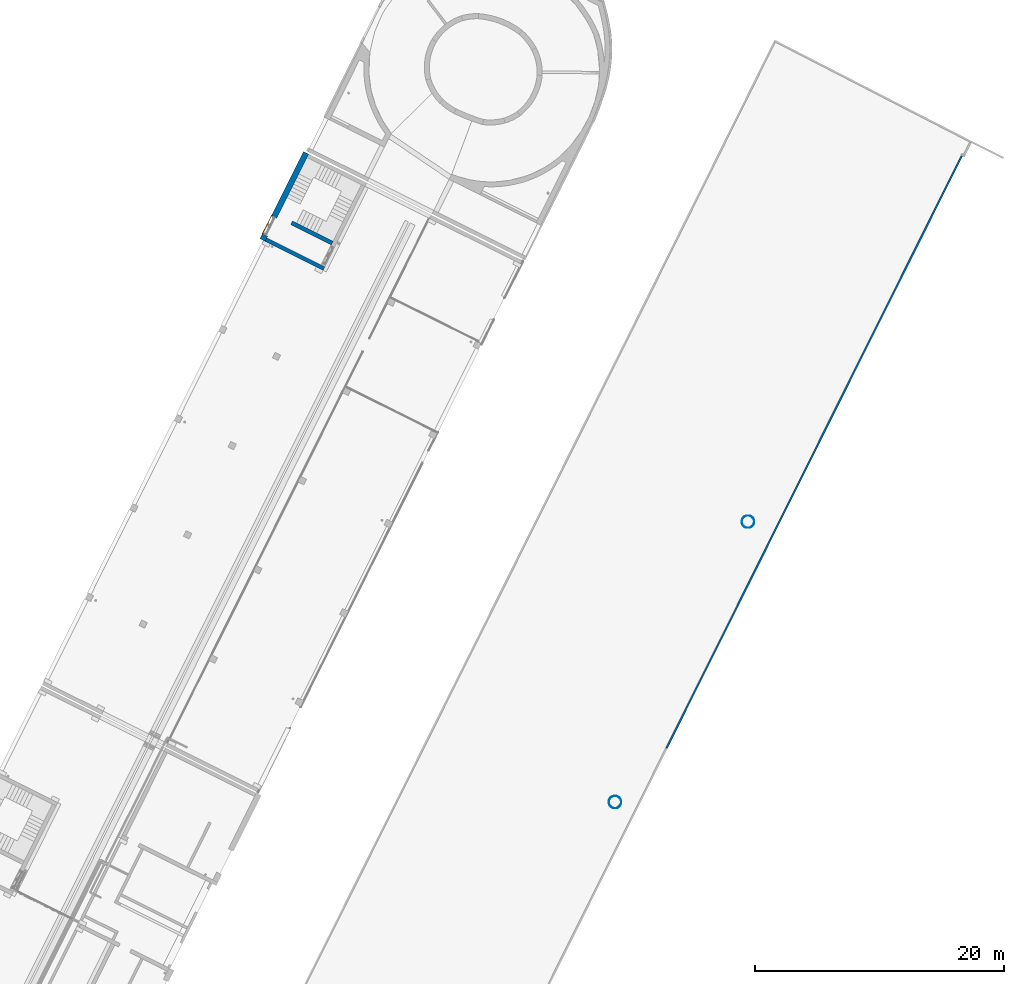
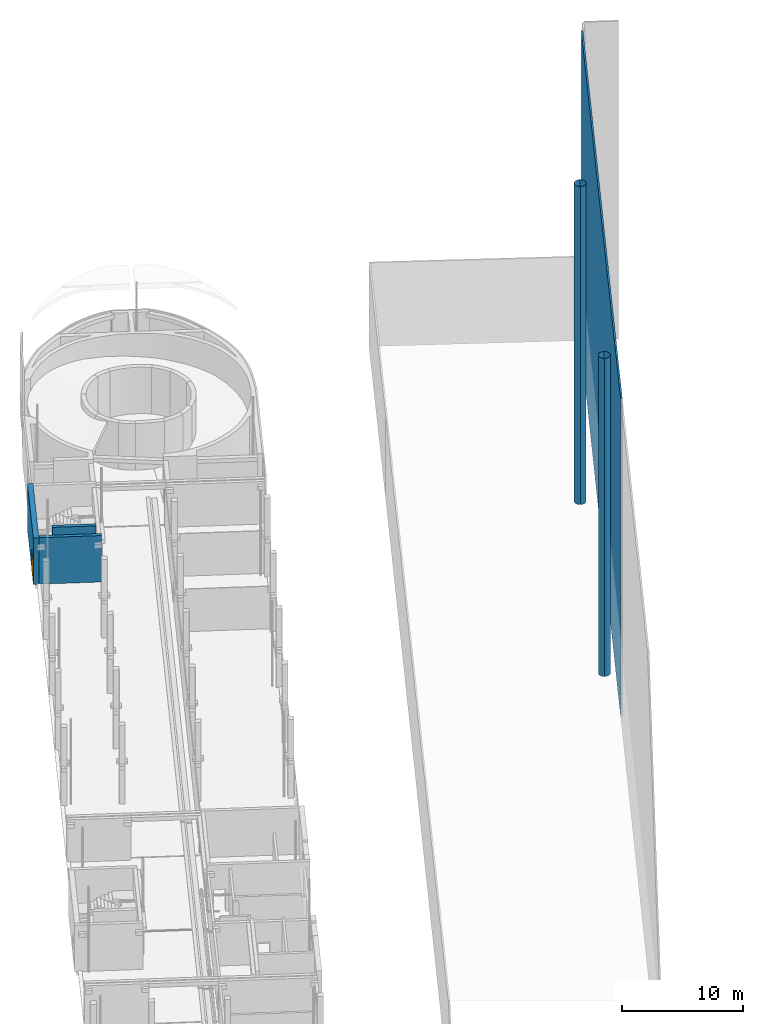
# One storey, part 16 of 91: 8 walls, 1 door, 1 opening.
"""IFC2X3 building model written with IfcOpenShell, lengths in metres."""

from ifc_helpers import new_model, entity, si_unit, converted_unit, derived_unit, direction, frame, frame_2d, origin, place, context, subcontext, project, spatial, polyline, circle_curve, parameter, trimmed, segment, composite_curve, rectangle, outline, extrude, clip, bounded_halfspace, faceted_brep, source, transform, mapped, material, layer, layer_set, layer_usage, type_object, type_shapes, element, fill, save


model = new_model("IFC2X3")

# Units and contexts
model_context = context("Model", 3, precision=1e-05, world=origin(), true_north=direction((0.894925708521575, 0.446215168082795)))
context_of_model = context(None, 3, precision=1e-05, world=origin(), true_north=direction((0.894925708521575, 0.446215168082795)))
body_context = subcontext(model_context, "Body", "Model", "MODEL_VIEW")
ifc_project = project(units=[si_unit("LENGTHUNIT", "METRE"), si_unit("AREAUNIT", "SQUARE_METRE"), si_unit("VOLUMEUNIT", "CUBIC_METRE"), converted_unit("PLANEANGLEUNIT", "DEGREE", entity("IfcRatioMeasure", 0.0174532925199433), si_unit("PLANEANGLEUNIT", "RADIAN"), dimensions=[0, 0, 0, 0, 0, 0, 0]), si_unit("MASSUNIT", "GRAM", prefix="KILO"), si_unit("TIMEUNIT", "SECOND"), si_unit("FREQUENCYUNIT", "HERTZ"), si_unit("THERMODYNAMICTEMPERATUREUNIT", "DEGREE_CELSIUS"), derived_unit("THERMALTRANSMITTANCEUNIT", [(si_unit("MASSUNIT", "GRAM", prefix="KILO"), 1), (si_unit("THERMODYNAMICTEMPERATUREUNIT", "KELVIN"), -1), (si_unit("TIMEUNIT", "SECOND"), -3)]), derived_unit("VOLUMETRICFLOWRATEUNIT", [(si_unit("LENGTHUNIT", "METRE"), 3), (si_unit("TIMEUNIT", "SECOND"), -1)]), si_unit("ELECTRICCURRENTUNIT", "AMPERE"), si_unit("ELECTRICVOLTAGEUNIT", "VOLT"), si_unit("POWERUNIT", "WATT"), si_unit("FORCEUNIT", "NEWTON", prefix="KILO"), si_unit("ILLUMINANCEUNIT", "LUX"), si_unit("LUMINOUSFLUXUNIT", "LUMEN"), si_unit("LUMINOUSINTENSITYUNIT", "CANDELA"), si_unit("PRESSUREUNIT", "PASCAL")], contexts=[model_context, context_of_model])

# Site, building, storey
site_placement = place(None, frame((218.228324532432, 584.720189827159, 0.0), z_axis=(0.0, 0.0, 1.0), x_axis=(0.446215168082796, 0.894925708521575, 0.0)))
site = spatial("IfcSite", under=ifc_project, at=site_placement, Name="Default", CompositionType="ELEMENT")
building_placement = place(site_placement, origin())
building = spatial("IfcBuilding", under=site, at=building_placement, CompositionType="ELEMENT")
storey_placement = place(building_placement, origin())
storey = spatial("IfcBuildingStorey", under=building, at=storey_placement, Name="0 - Piano Terra", CompositionType="ELEMENT", Elevation=0.0)

# Wall, opening, door
ifc_material_1 = material(Name="Alluminio")
ifc_layer_1 = layer(ifc_material_1, 0.15)
ifc_material_2 = material(Name="Default - Calcestruzzo")
ifc_layer_2 = layer(ifc_material_2, 0.3)
ifc_material_3 = material(Name="Intonaco - Bianco")
ifc_layer_3 = layer(ifc_material_3, 0.02)
ifc_layer_set_1 = layer_set([ifc_layer_1, ifc_layer_2, ifc_layer_3], Name="Muro di base:Setto CA rivestito int-est 47 cm")
ifc_layer_usage_1 = layer_usage(ifc_layer_set_1, "AXIS2", "NEGATIVE", 0.235)
wall_type_1 = type_object("IfcWallType", Name="Muro di base:Setto CA rivestito int-est 47 cm", PredefinedType="STANDARD", material=ifc_layer_set_1)
wall_1_placement = place(storey_placement, frame((51.0059369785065, 6.2239210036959, 0.0)))
wall_1 = element("IfcWallStandardCase", 1, at=wall_1_placement, inside=storey, type_object=wall_type_1, material=ifc_layer_usage_1, Name="Muro di base:Setto CA rivestito int-est 47 cm", ObjectType="Muro di base:Setto CA rivestito int-est 47 cm", context=body_context, shape_type="Clipping", body=[
    clip(extrude(rectangle(XDim=7.82999999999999, YDim=0.469999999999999, at=frame_2d((3.91499999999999, 0.0), x_axis=(-1.0, 0.0))), origin(), (0.0, 0.0, 1.0), 4.69), bounded_halfspace(frame((0.0, -0.235000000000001, 4.69), z_axis=(0.0, 0.0, -1.0), x_axis=(0.0, 1.0, 0.0)), True, frame((0.0, -0.235000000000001, 4.69)), polyline([(0.0, 0.0), (0.309999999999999, 0.0), (7.51999999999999, 0.0), (7.82999999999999, 0.0), (7.82999999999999, 0.140000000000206), (7.82999999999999, 0.47), (0.0, 0.47), (0.0, 0.140000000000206), (0.0, 0.0)]))),
])
opening_placement = place(wall_1_placement, frame((0.420000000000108, -0.534999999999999, 0.0)))
opening = element("IfcOpeningElement", 2, at=opening_placement, cuts=wall_1, Name="Muro di base:Setto CA rivestito int-est 47 cm", ObjectType="Opening", context=body_context, shape_type="Brep", body=[
    faceted_brep([(1.65999999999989, 0.0, 2.11000000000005), (1.65999999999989, 0.720000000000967, 2.11000000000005), (0.0399999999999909, 0.720000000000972, 2.11000000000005), (0.0399999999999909, 0.0, 2.11000000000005), (1.65999999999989, 1.07000000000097, 0.0), (1.65999999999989, 0.770000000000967, 0.0), (1.69999999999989, 0.770000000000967, 0.0), (1.69999999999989, 0.720000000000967, 0.0), (1.65999999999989, 0.720000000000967, 0.0), (1.65999999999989, 0.0, 0.0), (0.0399999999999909, 0.0, 0.0), (0.0399999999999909, 0.720000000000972, 0.0), (0.0, 0.720000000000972, 0.0), (0.0, 0.770000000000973, 0.0), (0.0399999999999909, 0.770000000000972, 0.0), (0.0399999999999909, 1.07000000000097, 0.0), (1.65999999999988, 1.07000000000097, 2.11000000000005), (0.0399999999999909, 1.07000000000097, 2.11000000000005), (1.65999999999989, 0.770000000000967, 2.11000000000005), (0.0, 0.770000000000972, 2.15000000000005), (1.69999999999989, 0.770000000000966, 2.15000000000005), (0.0399999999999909, 0.770000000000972, 2.11000000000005), (1.69999999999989, 0.720000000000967, 2.15000000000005), (0.0, 0.720000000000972, 2.15000000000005)], [[[0, 1, 2, 3]], [[4, 5, 6, 7, 8, 9, 10, 11, 12, 13, 14, 15]], [[16, 4, 15, 17]], [[3, 2, 11, 10]], [[3, 10, 9, 0]], [[16, 18, 5, 4]], [[13, 19, 20, 6, 5, 18, 21, 14]], [[11, 2, 1, 8, 7, 22, 23, 12]], [[12, 23, 19, 13]], [[19, 23, 22, 20]], [[20, 22, 7, 6]], [[9, 8, 1, 0]], [[15, 14, 21, 17]], [[17, 21, 18, 16]]]),
])
door_style = type_object("IfcDoorStyle", Name="180x210", ConstructionType="NOTDEFINED", OperationType="DOUBLE_DOOR_SINGLE_SWING", ParameterTakesPrecedence=False, Sizeable=False, material=ifc_material_1)
shared_shape = source(origin(), body_context, "Body", "Brep", [
    faceted_brep([(0.0499999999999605, -0.289999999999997, 0.0), (0.0499999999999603, -0.329999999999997, 0.0), (0.0649999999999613, -0.329999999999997, 0.0), (0.0649999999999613, -0.349999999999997, 0.0), (0.0, -0.349999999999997, 0.0), (0.0, -0.289999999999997, 0.0), (0.0499999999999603, -0.289999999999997, 2.10000000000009), (0.0499999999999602, -0.329999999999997, 2.10000000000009), (1.64999999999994, -0.330000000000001, 2.10000000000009), (1.64999999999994, -0.330000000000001, 0.0), (1.63499999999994, -0.330000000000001, 0.0), (1.63499999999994, -0.330000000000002, 2.08500000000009), (0.0649999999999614, -0.329999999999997, 2.08500000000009), (0.0649999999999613, -0.349999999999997, 2.08500000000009), (1.63499999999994, -0.350000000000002, 2.08500000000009), (1.63499999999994, -0.350000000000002, 0.0), (1.6999999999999, -0.350000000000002, 0.0), (1.6999999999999, -0.350000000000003, 2.15000000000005), (0.0, -0.349999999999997, 2.15000000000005), (0.0, -0.289999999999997, 2.15000000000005), (1.6999999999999, -0.290000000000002, 2.15000000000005), (1.6999999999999, -0.290000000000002, 0.0), (1.64999999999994, -0.290000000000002, 0.0), (1.64999999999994, -0.290000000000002, 2.10000000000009)], [[[0, 1, 2, 3, 4, 5]], [[1, 0, 6, 7]], [[2, 1, 7, 8, 9, 10, 11, 12]], [[3, 2, 12, 13]], [[4, 3, 13, 14, 15, 16, 17, 18]], [[5, 4, 18, 19]], [[0, 5, 19, 20, 21, 22, 23, 6]], [[8, 23, 22, 9]], [[22, 21, 16, 15, 10, 9]], [[14, 11, 10, 15]], [[20, 17, 16, 21]], [[7, 6, 23, 8]], [[13, 12, 11, 14]], [[19, 18, 17, 20]]]),
    faceted_brep([(0.84999999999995, -0.289999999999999, 2.1), (0.84999999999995, -0.289999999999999, 0.0), (0.0499999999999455, -0.289999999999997, 0.0), (0.0499999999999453, -0.289999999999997, 2.1), (0.849999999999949, -0.329999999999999, 2.1), (0.0499999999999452, -0.329999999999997, 2.1), (0.0499999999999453, -0.329999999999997, 0.0), (0.84999999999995, -0.329999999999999, 0.0)], [[[0, 1, 2, 3]], [[4, 5, 6, 7]], [[1, 0, 4, 7]], [[2, 1, 7, 6]], [[3, 2, 6, 5]], [[0, 3, 5, 4]]]),
    faceted_brep([(1.64999999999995, -0.29, 0.0), (0.84999999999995, -0.289999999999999, 0.0), (0.84999999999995, -0.289999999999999, 2.1), (1.64999999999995, -0.29, 2.1), (1.64999999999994, -0.330000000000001, 0.0), (1.64999999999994, -0.330000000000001, 2.1), (0.849999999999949, -0.329999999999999, 2.1), (0.84999999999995, -0.329999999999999, 0.0)], [[[0, 1, 2, 3]], [[4, 5, 6, 7]], [[1, 0, 4, 7]], [[2, 1, 7, 6]], [[3, 2, 6, 5]], [[0, 3, 5, 4]]]),
    faceted_brep([(0.864999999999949, -0.287000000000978, 2.1), (0.834999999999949, -0.287000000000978, 2.1), (0.834999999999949, -0.290000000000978, 2.1), (0.864999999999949, -0.290000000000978, 2.1), (0.864999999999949, -0.287000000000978, 0.0), (0.864999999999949, -0.290000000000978, 0.0), (0.834999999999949, -0.290000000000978, 0.0), (0.834999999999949, -0.287000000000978, 0.0)], [[[0, 1, 2, 3]], [[4, 5, 6, 7]], [[1, 0, 4, 7]], [[2, 1, 7, 6]], [[3, 2, 6, 5]], [[0, 3, 5, 4]]]),
    faceted_brep([(1.6599999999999, -0.280000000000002, 1.85000000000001), (1.64999999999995, -0.280000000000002, 1.85000000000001), (1.63499999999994, -0.290000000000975, 1.85000000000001), (1.6599999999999, -0.290000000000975, 1.85000000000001), (1.6599999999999, -0.280000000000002, 1.80000000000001), (1.64999999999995, -0.280000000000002, 1.80000000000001), (1.63499999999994, -0.290000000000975, 1.80000000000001), (1.6599999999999, -0.290000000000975, 1.80000000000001)], [[[0, 1, 2, 3]], [[1, 0, 4, 5]], [[2, 1, 5, 6]], [[3, 2, 6, 7]], [[0, 3, 7, 4]], [[4, 7, 6, 5]]]),
    faceted_brep([(0.0399999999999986, -0.280000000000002, 1.80000000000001), (0.0499999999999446, -0.280000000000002, 1.80000000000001), (0.064999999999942, -0.290000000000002, 1.80000000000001), (0.0399999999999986, -0.290000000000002, 1.80000000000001), (0.0399999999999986, -0.290000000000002, 1.85000000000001), (0.0399999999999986, -0.280000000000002, 1.85000000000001), (0.064999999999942, -0.290000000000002, 1.85000000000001), (0.0499999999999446, -0.280000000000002, 1.85000000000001)], [[[0, 1, 2, 3]], [[4, 5, 0, 3]], [[6, 4, 3, 2]], [[7, 6, 2, 1]], [[5, 7, 1, 0]], [[5, 4, 6, 7]]]),
    faceted_brep([(1.6599999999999, -0.280000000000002, 1.80000000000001), (1.64999999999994, -0.280000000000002, 1.80000000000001), (1.64999999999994, -0.290000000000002, 1.80000000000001), (1.6599999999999, -0.290000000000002, 1.80000000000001), (1.6599999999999, -0.280000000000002, 1.75000000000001), (1.64999999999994, -0.280000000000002, 1.75000000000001), (1.64999999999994, -0.290000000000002, 1.75000000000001), (1.6599999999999, -0.290000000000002, 1.75000000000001)], [[[0, 1, 2, 3]], [[1, 0, 4, 5]], [[2, 1, 5, 6]], [[3, 2, 6, 7]], [[0, 3, 7, 4]], [[4, 7, 6, 5]]]),
    faceted_brep([(0.0499999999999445, -0.280000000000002, 1.75000000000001), (0.0499999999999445, -0.290000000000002, 1.75000000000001), (0.0399999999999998, -0.290000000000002, 1.75000000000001), (0.0399999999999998, -0.280000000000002, 1.75000000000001), (0.0399999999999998, -0.280000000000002, 1.80000000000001), (0.0499999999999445, -0.280000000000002, 1.80000000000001), (0.0399999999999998, -0.290000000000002, 1.80000000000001), (0.0499999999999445, -0.290000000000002, 1.80000000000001)], [[[0, 1, 2, 3]], [[4, 5, 0, 3]], [[6, 4, 3, 2]], [[7, 6, 2, 1]], [[5, 7, 1, 0]], [[5, 4, 6, 7]]]),
    faceted_brep([(0.0399999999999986, -0.290000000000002, 0.349999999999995), (0.064999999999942, -0.290000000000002, 0.349999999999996), (0.0499999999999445, -0.280000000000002, 0.349999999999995), (0.0399999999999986, -0.280000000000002, 0.349999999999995), (0.0399999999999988, -0.290000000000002, 0.299999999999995), (0.0649999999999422, -0.290000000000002, 0.299999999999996), (0.0499999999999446, -0.280000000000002, 0.299999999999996), (0.0399999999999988, -0.280000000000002, 0.299999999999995)], [[[0, 1, 2, 3]], [[1, 0, 4, 5]], [[2, 1, 5, 6]], [[3, 2, 6, 7]], [[0, 3, 7, 4]], [[4, 7, 6, 5]]]),
    faceted_brep([(1.6599999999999, -0.280000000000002, 0.300000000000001), (1.6599999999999, -0.290000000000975, 0.300000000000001), (1.63499999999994, -0.290000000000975, 0.300000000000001), (1.64999999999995, -0.280000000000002, 0.300000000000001), (1.64999999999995, -0.280000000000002, 0.350000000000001), (1.6599999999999, -0.280000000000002, 0.350000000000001), (1.63499999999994, -0.290000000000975, 0.350000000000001), (1.6599999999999, -0.290000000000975, 0.350000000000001)], [[[0, 1, 2, 3]], [[4, 5, 0, 3]], [[6, 4, 3, 2]], [[7, 6, 2, 1]], [[5, 7, 1, 0]], [[5, 4, 6, 7]]]),
    faceted_brep([(1.64999999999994, -0.280000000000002, 0.300000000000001), (1.64999999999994, -0.290000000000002, 0.300000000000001), (1.6599999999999, -0.290000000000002, 0.300000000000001), (1.6599999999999, -0.280000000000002, 0.300000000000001), (1.64999999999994, -0.280000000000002, 0.250000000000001), (1.64999999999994, -0.290000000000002, 0.250000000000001), (1.6599999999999, -0.290000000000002, 0.250000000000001), (1.6599999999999, -0.280000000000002, 0.250000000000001)], [[[0, 1, 2, 3]], [[1, 0, 4, 5]], [[2, 1, 5, 6]], [[3, 2, 6, 7]], [[0, 3, 7, 4]], [[4, 7, 6, 5]]]),
    faceted_brep([(0.0499999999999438, -0.280000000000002, 0.249999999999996), (0.0499999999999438, -0.290000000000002, 0.249999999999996), (0.0399999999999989, -0.290000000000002, 0.249999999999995), (0.0399999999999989, -0.280000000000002, 0.249999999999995), (0.0399999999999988, -0.280000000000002, 0.299999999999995), (0.0499999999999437, -0.280000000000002, 0.299999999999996), (0.0399999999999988, -0.290000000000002, 0.299999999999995), (0.0499999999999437, -0.290000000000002, 0.299999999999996)], [[[0, 1, 2, 3]], [[4, 5, 0, 3]], [[6, 4, 3, 2]], [[7, 6, 2, 1]], [[5, 7, 1, 0]], [[5, 4, 6, 7]]]),
])
type_shapes(door_style, [shared_shape])
door_placement = place(storey_placement, frame((51.4259369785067, 6.75892100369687, 0.0)))
door = element("IfcDoor", 3, at=door_placement, inside=storey, type_object=door_style, material=ifc_material_1, Name="120-180x210 Uscita di sicurezza doppia:180x210", ObjectType="180x210", OverallHeight=2.15000000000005, OverallWidth=1.6999999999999, context=body_context, shape_type="MappedRepresentation", body=[
    mapped(shared_shape, transform((0.0, 0.0, 0.0), scale=1.0)),
])
fill(opening, door)

# Walls
ifc_layer_4 = layer(ifc_material_2, 0.3)
ifc_layer_5 = layer(ifc_material_3, 0.01)
ifc_layer_set_2 = layer_set([ifc_layer_4, ifc_layer_5], Name="Muro di base:Setto CA rivestito int - 31 cm")
ifc_layer_usage_2 = layer_usage(ifc_layer_set_2, "AXIS2", "NEGATIVE", 0.155)
wall_type_2 = type_object("IfcWallType", Name="Muro di base:Setto CA rivestito int - 31 cm", PredefinedType="STANDARD", material=ifc_layer_set_2)
wall_2_placement = place(storey_placement, frame((51.1609369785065, 0.798921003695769, 0.0), z_axis=(0.0, 0.0, 1.0), x_axis=(0.0, 1.0, 0.0)))
element("IfcWallStandardCase", 4, at=wall_2_placement, inside=storey, type_object=wall_type_2, material=ifc_layer_usage_2, Name="Muro di base:Setto CA rivestito int - 31 cm", ObjectType="Muro di base:Setto CA rivestito int - 31 cm", context=body_context, shape_type="Clipping", body=[
    clip(extrude(rectangle(XDim=5.19000000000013, YDim=0.309999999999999, at=frame_2d((2.59500000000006, 0.0), x_axis=(-1.0, 0.0))), origin(), (0.0, 0.0, 1.0), 4.69), bounded_halfspace(frame((0.0, -0.154999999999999, 4.69), z_axis=(0.0, 0.0, -1.0), x_axis=(0.0, 1.0, 0.0)), True, frame((0.0, -0.154999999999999, 4.69)), polyline([(0.0, 0.0), (5.19000000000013, 0.0), (5.19000000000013, 0.309999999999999), (0.0, 0.309999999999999), (0.0, 0.0)]))),
])
ifc_layer_6 = layer(ifc_material_1, 0.01)
ifc_layer_set_3 = layer_set([ifc_layer_6], Name="Muro di base:Lamierino")
ifc_layer_usage_3 = layer_usage(ifc_layer_set_3, "AXIS2", "POSITIVE", -0.00500000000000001)
wall_type_3 = type_object("IfcWallType", Name="Muro di base:Lamierino", PredefinedType="STANDARD", material=ifc_layer_set_3)
wall_3_placement = place(storey_placement, frame((23.7826213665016, -39.1929469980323, 8.45)))
element("IfcWallStandardCase", 5, at=wall_3_placement, inside=storey, type_object=wall_type_3, material=ifc_layer_usage_3, Name="Muro di base:Lamierino", ObjectType="Muro di base:Lamierino", context=body_context, shape_type="Clipping", body=[
    clip(extrude(outline(composite_curve([segment(trimmed(circle_curve(frame_2d((-0.494999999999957, 0.0), x_axis=(1.0, 0.0)), 0.499999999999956), [parameter(180.0)], [parameter(0.0)], True, "PARAMETER"), True, "CONTINUOUS"), segment(polyline([(0.00499999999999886, 0.0), (-0.00500000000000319, 0.0)]), True, "CONTINUOUS"), segment(trimmed(circle_curve(frame_2d((-0.494999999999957, 0.0), x_axis=(1.0, 0.0)), 0.489999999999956), [parameter(180.0)], [parameter(0.0)], True, "PARAMETER"), False, "CONTINUOUS"), segment(polyline([(-0.98499999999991, 0.0), (-0.994999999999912, 0.0)]), True, "CONTINUOUS")], self_intersect=False)), origin(), (0.0, 0.0, 1.0), 32.15), bounded_halfspace(frame((0.00499999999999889, 0.0, 0.00499999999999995)), True, frame((0.00499999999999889, 0.0, 0.00499999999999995)), composite_curve([segment(polyline([(0.0, 0.0), (-0.00304800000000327, 0.0)]), True, "CONTINUOUS"), segment(trimmed(circle_curve(frame_2d((-0.152399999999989, 0.0), x_axis=(1.0, 0.0)), 0.489999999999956), [parameter(180.0)], [parameter(0.0)], True, "PARAMETER"), False, "CONTINUOUS"), segment(polyline([(-0.301751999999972, 0.0), (-0.304799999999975, 0.0)]), True, "CONTINUOUS"), segment(trimmed(circle_curve(frame_2d((-0.152399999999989, 0.0), x_axis=(1.0, 0.0)), 0.499999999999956), [parameter(180.0)], [parameter(0.0)], True, "PARAMETER"), True, "CONTINUOUS")], self_intersect=False))),
])
ifc_layer_usage_4 = layer_usage(ifc_layer_set_3, "AXIS2", "POSITIVE", -0.00500000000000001)
wall_4_placement = place(storey_placement, frame((22.7926213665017, -39.1929469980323, 8.45)))
element("IfcWallStandardCase", 6, at=wall_4_placement, inside=storey, type_object=wall_type_3, material=ifc_layer_usage_4, Name="Muro di base:Lamierino", ObjectType="Muro di base:Lamierino", context=body_context, shape_type="Clipping", body=[
    clip(extrude(outline(composite_curve([segment(trimmed(circle_curve(frame_2d((0.494999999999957, 0.0), x_axis=(1.0, 0.0)), 0.499999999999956), [parameter(0.0)], [parameter(180.0)], True, "PARAMETER"), True, "CONTINUOUS"), segment(polyline([(-0.00499999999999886, 0.0), (0.00500000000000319, 0.0)]), True, "CONTINUOUS"), segment(trimmed(circle_curve(frame_2d((0.494999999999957, 0.0), x_axis=(1.0, 0.0)), 0.489999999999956), [parameter(0.0)], [parameter(180.0)], True, "PARAMETER"), False, "CONTINUOUS"), segment(polyline([(0.98499999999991, 0.0), (0.994999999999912, 0.0)]), True, "CONTINUOUS")], self_intersect=False)), origin(), (0.0, 0.0, 1.0), 32.15), bounded_halfspace(frame((-0.00499999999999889, 0.0, 0.00499999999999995)), True, frame((-0.00499999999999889, 0.0, 0.00499999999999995)), composite_curve([segment(polyline([(0.0, 0.0), (0.00304799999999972, 0.0)]), True, "CONTINUOUS"), segment(trimmed(circle_curve(frame_2d((0.152399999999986, 0.0), x_axis=(1.0, 0.0)), 0.489999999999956), [parameter(0.0)], [parameter(180.0)], True, "PARAMETER"), False, "CONTINUOUS"), segment(polyline([(0.301751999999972, 0.0), (0.304799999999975, 0.0)]), True, "CONTINUOUS"), segment(trimmed(circle_curve(frame_2d((0.152399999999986, 0.0), x_axis=(1.0, 0.0)), 0.499999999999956), [parameter(0.0)], [parameter(180.0)], True, "PARAMETER"), True, "CONTINUOUS")], self_intersect=False))),
])
ifc_layer_usage_5 = layer_usage(ifc_layer_set_3, "AXIS2", "POSITIVE", -0.00500000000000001)
wall_5_placement = place(storey_placement, frame((48.6598767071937, -38.7046105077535, 8.45)))
element("IfcWallStandardCase", 7, at=wall_5_placement, inside=storey, type_object=wall_type_3, material=ifc_layer_usage_5, Name="Muro di base:Lamierino", ObjectType="Muro di base:Lamierino", context=body_context, shape_type="Clipping", body=[
    clip(extrude(outline(composite_curve([segment(trimmed(circle_curve(frame_2d((-0.495000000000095, 0.0), x_axis=(1.0, 0.0)), 0.500000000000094), [parameter(180.0)], [parameter(0.0)], True, "PARAMETER"), True, "CONTINUOUS"), segment(polyline([(0.00499999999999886, 0.0), (-0.00499999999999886, 0.0)]), True, "CONTINUOUS"), segment(trimmed(circle_curve(frame_2d((-0.495000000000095, 0.0), x_axis=(1.0, 0.0)), 0.490000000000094), [parameter(180.0)], [parameter(0.0)], True, "PARAMETER"), False, "CONTINUOUS"), segment(polyline([(-0.985000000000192, 0.0), (-0.99500000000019, 0.0)]), True, "CONTINUOUS")], self_intersect=False)), origin(), (0.0, 0.0, 1.0), 32.15), bounded_halfspace(frame((0.00499999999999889, 0.0, 0.00499999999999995)), True, frame((0.00499999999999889, 0.0, 0.00499999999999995)), composite_curve([segment(polyline([(0.0, 0.0), (-0.00304799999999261, 0.0)]), True, "CONTINUOUS"), segment(trimmed(circle_curve(frame_2d((-0.152400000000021, 0.0), x_axis=(1.0, 0.0)), 0.490000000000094), [parameter(180.0)], [parameter(0.0)], True, "PARAMETER"), False, "CONTINUOUS"), segment(polyline([(-0.30175200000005, 0.0), (-0.304800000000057, 0.0)]), True, "CONTINUOUS"), segment(trimmed(circle_curve(frame_2d((-0.152400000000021, 0.0), x_axis=(1.0, 0.0)), 0.500000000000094), [parameter(180.0)], [parameter(359.999999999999)], True, "PARAMETER"), True, "CONTINUOUS")], self_intersect=False))),
])
ifc_layer_usage_6 = layer_usage(ifc_layer_set_3, "AXIS2", "POSITIVE", -0.00500000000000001)
wall_6_placement = place(storey_placement, frame((47.6698767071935, -38.7046105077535, 8.45)))
element("IfcWallStandardCase", 8, at=wall_6_placement, inside=storey, type_object=wall_type_3, material=ifc_layer_usage_6, Name="Muro di base:Lamierino", ObjectType="Muro di base:Lamierino", context=body_context, shape_type="Clipping", body=[
    clip(extrude(outline(composite_curve([segment(trimmed(circle_curve(frame_2d((0.495000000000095, 0.0), x_axis=(1.0, 0.0)), 0.500000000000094), [parameter(0.0)], [parameter(180.0)], True, "PARAMETER"), True, "CONTINUOUS"), segment(polyline([(-0.00499999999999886, 0.0), (0.00499999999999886, 0.0)]), True, "CONTINUOUS"), segment(trimmed(circle_curve(frame_2d((0.495000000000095, 0.0), x_axis=(1.0, 0.0)), 0.490000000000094), [parameter(0.0)], [parameter(180.0)], True, "PARAMETER"), False, "CONTINUOUS"), segment(polyline([(0.985000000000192, 0.0), (0.99500000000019, 0.0)]), True, "CONTINUOUS")], self_intersect=False)), origin(), (0.0, 0.0, 1.0), 32.15), bounded_halfspace(frame((-0.00499999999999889, 0.0, 0.00499999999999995)), True, frame((-0.00499999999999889, 0.0, 0.00499999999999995)), composite_curve([segment(polyline([(0.0, 0.0), (0.00304799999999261, 0.0)]), True, "CONTINUOUS"), segment(trimmed(circle_curve(frame_2d((0.152400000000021, 0.0), x_axis=(1.0, 0.0)), 0.490000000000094), [parameter(1.52666624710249e-12)], [parameter(180.0)], True, "PARAMETER"), False, "CONTINUOUS"), segment(polyline([(0.30175200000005, 0.0), (0.304800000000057, 0.0)]), True, "CONTINUOUS"), segment(trimmed(circle_curve(frame_2d((0.152400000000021, 0.0), x_axis=(1.0, 0.0)), 0.500000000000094), [parameter(0.0)], [parameter(180.0)], True, "PARAMETER"), True, "CONTINUOUS")], self_intersect=False))),
])
ifc_layer_7 = layer(ifc_material_3, 0.01)
ifc_layer_8 = layer(ifc_material_2, 0.3)
ifc_layer_9 = layer(ifc_material_3, 0.01)
ifc_layer_set_4 = layer_set([ifc_layer_7, ifc_layer_8, ifc_layer_9], Name="Muro di base:Setto CA rivestito int - est 32 cm")
ifc_layer_usage_7 = layer_usage(ifc_layer_set_4, "AXIS2", "POSITIVE", -0.16)
wall_type_4 = type_object("IfcWallType", Name="Muro di base:Setto CA rivestito int - est 32 cm", PredefinedType="STANDARD", material=ifc_layer_set_4)
wall_7_placement = place(storey_placement, frame((53.2859369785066, 4.75392100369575, 0.0), z_axis=(0.0, 0.0, 1.0), x_axis=(0.0, -1.0, 0.0)))
element("IfcWallStandardCase", 9, at=wall_7_placement, inside=storey, type_object=wall_type_4, material=ifc_layer_usage_7, Name="Muro di base:Setto CA rivestito int - est 32 cm", ObjectType="Muro di base:Setto CA rivestito int - est 32 cm", context=body_context, shape_type="Clipping", body=[
    clip(extrude(rectangle(XDim=3.64499999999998, YDim=0.319999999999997, at=frame_2d((1.82249999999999, 0.0), x_axis=(-1.0, 0.0))), origin(), (0.0, 0.0, 1.0), 4.29), bounded_halfspace(frame((0.0, -0.159999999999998, 4.2), z_axis=(0.0, 0.0, -1.0), x_axis=(0.0, -1.0, 0.0)), True, frame((0.0, -0.159999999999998, 4.2)), polyline([(0.0, 0.0), (3.64499999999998, 0.0), (3.64499999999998, 0.319999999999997), (0.36484302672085, 0.319999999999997), (0.0, 0.319999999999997), (0.0, 0.0)]))),
])
ifc_material_4 = material(Name="Default - Finestre")
ifc_layer_10 = layer(ifc_material_4, 0.15)
ifc_layer_set_5 = layer_set([ifc_layer_10], Name="Muro di base:Rivestimento pannelli 5 cm")
ifc_layer_usage_8 = layer_usage(ifc_layer_set_5, "AXIS2", "NEGATIVE", 0.075)
wall_type_5 = type_object("IfcWallType", Name="Muro di base:Rivestimento pannelli 5 cm", PredefinedType="STANDARD", material=ifc_layer_set_5)
wall_8_placement = place(storey_placement, frame((28.9903869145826, -40.9570555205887, 0.0), z_axis=(0.0, 0.0, 1.0), x_axis=(0.99999999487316, 0.000101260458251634, 0.0)))
element("IfcWallStandardCase", 10, at=wall_8_placement, inside=storey, type_object=wall_type_5, material=ifc_layer_usage_8, Name="Muro di base:Rivestimento pannelli 5 cm", ObjectType="Muro di base:Rivestimento pannelli 5 cm", context=body_context, shape_type="SweptSolid", body=[
    extrude(rectangle(XDim=53.0984109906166, YDim=0.15, at=frame_2d((26.5492054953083, 3.28209681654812e-15), x_axis=(-1.0, 0.0))), origin(), (0.0, 0.0, 1.0), 32.15),
])

save(model, "model.ifc")
